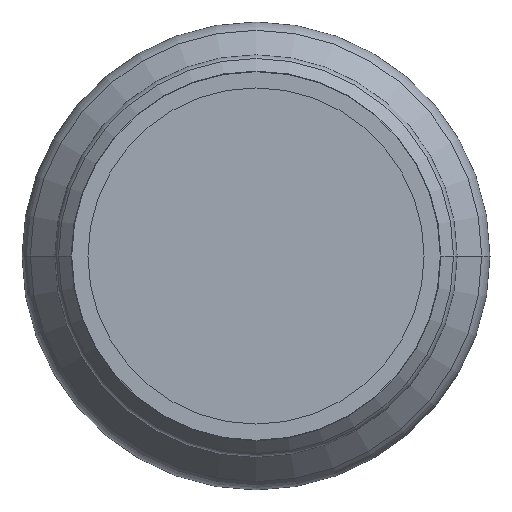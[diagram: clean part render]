
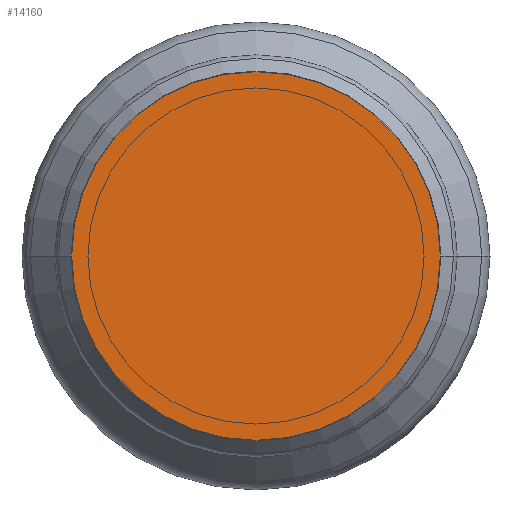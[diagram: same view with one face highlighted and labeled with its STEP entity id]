
A CAD part, front view. The second image highlights one B-rep face of the part: STEP entity #14160.
In plain terms, the highlighted planar face has unit normal (0, -1, 0).
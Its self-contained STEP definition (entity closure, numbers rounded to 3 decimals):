
#13820=CARTESIAN_POINT('',(-306.056,193.472,0.));
#13830=VERTEX_POINT('',#13820);
#13920=CARTESIAN_POINT('',(-270.967,193.472,0.));
#13930=VERTEX_POINT('',#13920);
#13960=CARTESIAN_POINT('',(-288.511,193.472,0.));
#13970=DIRECTION('',(0.,1.,0.));
#13980=DIRECTION('',(1.,0.,0.));
#13990=AXIS2_PLACEMENT_3D('',#13960,#13970,#13980);
#14000=CIRCLE('',#13990,17.544);
#14010=EDGE_CURVE('',#13830,#13930,#14000,.T.);
#14060=CARTESIAN_POINT('',(-284.503,193.472,
15.783));
#14070=DIRECTION('',(0.,-1.,0.));
#14080=DIRECTION('',(1.,0.,0.));
#14090=AXIS2_PLACEMENT_3D('',#14060,#14070,#14080);
#14100=PLANE('',#14090);
#14110=EDGE_CURVE('',#13930,#13830,#14000,.T.);
#14120=ORIENTED_EDGE('',*,*,#14110,.F.);
#14130=ORIENTED_EDGE('',*,*,#14010,.F.);
#14140=EDGE_LOOP('',(#14130,#14120));
#14150=FACE_OUTER_BOUND('',#14140,.T.);
#14160=ADVANCED_FACE('',(#14150),#14100,.T.);
